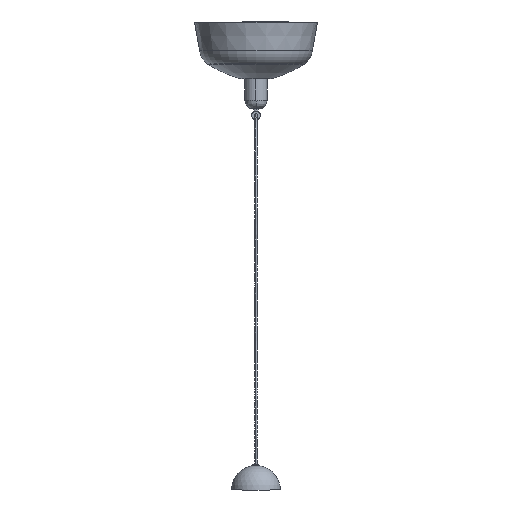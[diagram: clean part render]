
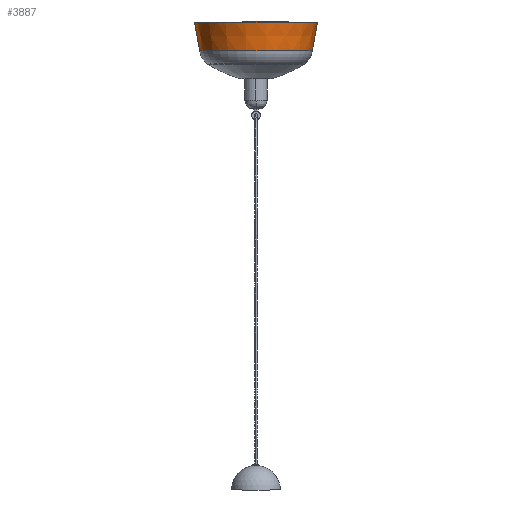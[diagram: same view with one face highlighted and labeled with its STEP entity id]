
A CAD part, left-side view. The second image highlights one B-rep face of the part: STEP entity #3887.
In plain terms, the highlighted conical face has half-angle 10.001 degrees and reference radius 116.51 mm.
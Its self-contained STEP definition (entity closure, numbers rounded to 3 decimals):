
#341=CONICAL_SURFACE('',#5350,116.51,0.175);
#441=FACE_OUTER_BOUND('',#813,.T.);
#813=EDGE_LOOP('',(#2581,#2582,#2583,#2584));
#1241=VERTEX_POINT('',#9117);
#1242=VERTEX_POINT('',#9119);
#1243=VERTEX_POINT('',#9125);
#1244=VERTEX_POINT('',#9127);
#1707=EDGE_CURVE('',#1242,#1241,#4288,.T.);
#1710=EDGE_CURVE('',#1243,#1241,#4688,.T.);
#1711=EDGE_CURVE('',#1244,#1243,#4290,.T.);
#1712=EDGE_CURVE('',#1242,#1244,#4689,.T.);
#2581=ORIENTED_EDGE('',*,*,#1710,.F.);
#2582=ORIENTED_EDGE('',*,*,#1711,.F.);
#2583=ORIENTED_EDGE('',*,*,#1712,.F.);
#2584=ORIENTED_EDGE('',*,*,#1707,.T.);
#3887=ADVANCED_FACE('',(#441),#341,.T.);
#4288=CIRCLE('',#5347,125.918);
#4290=CIRCLE('',#5351,115.464);
#4688=LINE('',#9126,#4970);
#4689=LINE('',#9129,#4971);
#4970=VECTOR('',#6265,304.8);
#4971=VECTOR('',#6268,304.8);
#5347=AXIS2_PLACEMENT_3D('',#9120,#6256,#6257);
#5350=AXIS2_PLACEMENT_3D('',#9124,#6263,#6264);
#5351=AXIS2_PLACEMENT_3D('',#9128,#6266,#6267);
#6256=DIRECTION('center_axis',(0.,0.,
-1.));
#6257=DIRECTION('ref_axis',(0.588,0.809,0.));
#6263=DIRECTION('center_axis',(0.,0.,
1.));
#6264=DIRECTION('ref_axis',(-1.,0.,0.));
#6265=DIRECTION('',(0.,0.174,0.985));
#6266=DIRECTION('center_axis',(0.,0.,
-1.));
#6267=DIRECTION('ref_axis',(0.588,0.809,0.));
#6268=DIRECTION('',(0.,0.174,-0.985));
#9117=CARTESIAN_POINT('',(261.269,125.668,958.29));
#9119=CARTESIAN_POINT('',(261.269,-126.168,958.29));
#9120=CARTESIAN_POINT('Origin',(261.269,-0.25,958.29));
#9124=CARTESIAN_POINT('Origin',(261.269,-0.25,904.939));
#9125=CARTESIAN_POINT('',(261.269,115.214,899.011));
#9126=CARTESIAN_POINT('',(261.269,115.214,899.011));
#9127=CARTESIAN_POINT('',(261.269,-115.714,899.011));
#9128=CARTESIAN_POINT('Origin',(261.269,-0.25,899.011));
#9129=CARTESIAN_POINT('',(261.269,-126.168,958.29));
